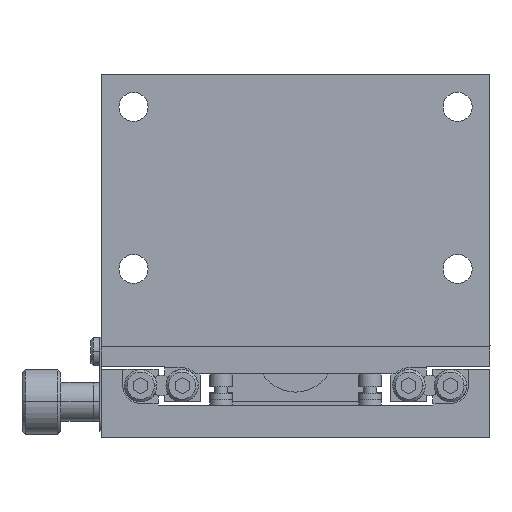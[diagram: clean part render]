
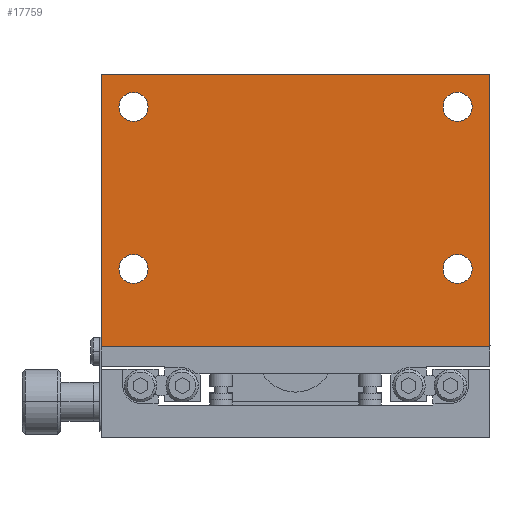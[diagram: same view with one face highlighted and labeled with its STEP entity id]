
A CAD part, front view. The second image highlights one B-rep face of the part: STEP entity #17759.
In plain terms, the highlighted planar face has unit normal (0, -1, 0).
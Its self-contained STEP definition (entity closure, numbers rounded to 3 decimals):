
#13453 = CARTESIAN_POINT ( 'NONE',  ( -25., 0., -6.75 ) ) ;
#13511 = CARTESIAN_POINT ( 'NONE',  ( -25., 0., -11.25 ) ) ;
#13512 = DIRECTION ( 'NONE',  ( 0., 0., -1. ) ) ;
#13513 = DIRECTION ( 'NONE',  ( 0., -1., 0. ) ) ;
#13514 = CARTESIAN_POINT ( 'NONE',  ( -25., 0., -9. ) ) ;
#13515 = AXIS2_PLACEMENT_3D ( 'NONE', #13514, #13513, #13512 ) ;
#13516 = CIRCLE ( 'NONE', #13515, 2.25 ) ;
#13517 = CARTESIAN_POINT ( 'NONE',  ( 25., 0., -6.75 ) ) ;
#13575 = CARTESIAN_POINT ( 'NONE',  ( 25., 0., -11.25 ) ) ;
#13576 = DIRECTION ( 'NONE',  ( 0., 0., -1. ) ) ;
#13577 = DIRECTION ( 'NONE',  ( 0., -1., 0. ) ) ;
#13578 = CARTESIAN_POINT ( 'NONE',  ( 25., 0., -9. ) ) ;
#13579 = AXIS2_PLACEMENT_3D ( 'NONE', #13578, #13577, #13576 ) ;
#13580 = CIRCLE ( 'NONE', #13579, 2.25 ) ;
#13598 = CARTESIAN_POINT ( 'NONE',  ( 25., 0., 13.75 ) ) ;
#13599 = DIRECTION ( 'NONE',  ( 0., 0., -1. ) ) ;
#13600 = DIRECTION ( 'NONE',  ( 0., -1., 0. ) ) ;
#13601 = CARTESIAN_POINT ( 'NONE',  ( 25., 0., 16. ) ) ;
#13602 = AXIS2_PLACEMENT_3D ( 'NONE', #13601, #13600, #13599 ) ;
#13603 = CIRCLE ( 'NONE', #13602, 2.25 ) ;
#13604 = CARTESIAN_POINT ( 'NONE',  ( 25., 0., 18.25 ) ) ;
#13615 = CARTESIAN_POINT ( 'NONE',  ( -25., 0., 16. ) ) ;
#13666 = CARTESIAN_POINT ( 'NONE',  ( -25., 0., 18.25 ) ) ;
#13673 = DIRECTION ( 'NONE',  ( 0., 0., -1. ) ) ;
#13674 = DIRECTION ( 'NONE',  ( 0., -1., 0. ) ) ;
#13675 = AXIS2_PLACEMENT_3D ( 'NONE', #13615, #13674, #13673 ) ;
#13676 = CIRCLE ( 'NONE', #13675, 2.25 ) ;
#13702 = CARTESIAN_POINT ( 'NONE',  ( -25., 0., 13.75 ) ) ;
#13774 = CARTESIAN_POINT ( 'NONE',  ( -30., 0., -21. ) ) ;
#13870 = CARTESIAN_POINT ( 'NONE',  ( 30., 0., 21. ) ) ;
#13894 = DIRECTION ( 'NONE',  ( 1., 0., 0. ) ) ;
#13895 = VECTOR ( 'NONE', #13894, 1000. ) ;
#13896 = CARTESIAN_POINT ( 'NONE',  ( -30., 0., 21. ) ) ;
#13897 = LINE ( 'NONE', #13896, #13895 ) ;
#13899 = DIRECTION ( 'NONE',  ( 0., 0., 1. ) ) ;
#13900 = VECTOR ( 'NONE', #13899, 1000. ) ;
#13901 = CARTESIAN_POINT ( 'NONE',  ( -30., 0., -21. ) ) ;
#13902 = LINE ( 'NONE', #13901, #13900 ) ;
#13916 = CARTESIAN_POINT ( 'NONE',  ( -30., 0., 21. ) ) ;
#13936 = DIRECTION ( 'NONE',  ( 0., 0., -1. ) ) ;
#13937 = DIRECTION ( 'NONE',  ( 0., -1., 0. ) ) ;
#13938 = CARTESIAN_POINT ( 'NONE',  ( 25., 0., -9. ) ) ;
#13939 = AXIS2_PLACEMENT_3D ( 'NONE', #13938, #13937, #13936 ) ;
#13940 = CIRCLE ( 'NONE', #13939, 2.25 ) ;
#13941 = DIRECTION ( 'NONE',  ( 0., 0., 1. ) ) ;
#13942 = DIRECTION ( 'NONE',  ( 0., 1., 0. ) ) ;
#13943 = CARTESIAN_POINT ( 'NONE',  ( -30., 0., 21. ) ) ;
#13944 = AXIS2_PLACEMENT_3D ( 'NONE', #13943, #13942, #13941 ) ;
#13945 = PLANE ( 'NONE',  #13944 ) ;
#13946 = FACE_OUTER_BOUND ( 'NONE', #17868, .T. ) ;
#13947 = FACE_BOUND ( 'NONE', #17814, .T. ) ;
#13948 = FACE_BOUND ( 'NONE', #17822, .T. ) ;
#13949 = FACE_BOUND ( 'NONE', #17775, .T. ) ;
#13950 = FACE_BOUND ( 'NONE', #17761, .T. ) ;
#13981 = DIRECTION ( 'NONE',  ( -1., 0., 0. ) ) ;
#13982 = VECTOR ( 'NONE', #13981, 1000. ) ;
#13983 = CARTESIAN_POINT ( 'NONE',  ( -30., 0., -21. ) ) ;
#13984 = LINE ( 'NONE', #13983, #13982 ) ;
#14008 = DIRECTION ( 'NONE',  ( 0., 0., -1. ) ) ;
#14009 = DIRECTION ( 'NONE',  ( 0., -1., 0. ) ) ;
#14010 = CARTESIAN_POINT ( 'NONE',  ( -25., 0., -9. ) ) ;
#14011 = AXIS2_PLACEMENT_3D ( 'NONE', #14010, #14009, #14008 ) ;
#14012 = CIRCLE ( 'NONE', #14011, 2.25 ) ;
#14019 = DIRECTION ( 'NONE',  ( 0., 0., -1. ) ) ;
#14020 = VECTOR ( 'NONE', #14019, 1000. ) ;
#14021 = CARTESIAN_POINT ( 'NONE',  ( 30., 0., -21. ) ) ;
#14022 = LINE ( 'NONE', #14021, #14020 ) ;
#14027 = CARTESIAN_POINT ( 'NONE',  ( 30., 0., -21. ) ) ;
#14057 = DIRECTION ( 'NONE',  ( 0., 0., -1. ) ) ;
#14058 = DIRECTION ( 'NONE',  ( 0., -1., 0. ) ) ;
#14059 = CARTESIAN_POINT ( 'NONE',  ( -25., 0., 16. ) ) ;
#14060 = AXIS2_PLACEMENT_3D ( 'NONE', #14059, #14058, #14057 ) ;
#14061 = CIRCLE ( 'NONE', #14060, 2.25 ) ;
#14117 = DIRECTION ( 'NONE',  ( 0., 0., -1. ) ) ;
#14118 = DIRECTION ( 'NONE',  ( 0., -1., 0. ) ) ;
#14119 = CARTESIAN_POINT ( 'NONE',  ( 25., 0., 16. ) ) ;
#14120 = AXIS2_PLACEMENT_3D ( 'NONE', #14119, #14118, #14117 ) ;
#14121 = CIRCLE ( 'NONE', #14120, 2.25 ) ;
#17511 = VERTEX_POINT ( 'NONE', #13453 ) ;
#17513 = EDGE_CURVE ( 'NONE', #17511, #17514, #13516, .T. ) ;
#17514 = VERTEX_POINT ( 'NONE', #13511 ) ;
#17560 = VERTEX_POINT ( 'NONE', #13517 ) ;
#17562 = EDGE_CURVE ( 'NONE', #17560, #17563, #13580, .T. ) ;
#17563 = VERTEX_POINT ( 'NONE', #13575 ) ;
#17580 = VERTEX_POINT ( 'NONE', #13604 ) ;
#17582 = EDGE_CURVE ( 'NONE', #17580, #17583, #13603, .T. ) ;
#17583 = VERTEX_POINT ( 'NONE', #13598 ) ;
#17601 = EDGE_CURVE ( 'NONE', #17607, #17623, #13676, .T. ) ;
#17607 = VERTEX_POINT ( 'NONE', #13666 ) ;
#17623 = VERTEX_POINT ( 'NONE', #13702 ) ;
#17687 = VERTEX_POINT ( 'NONE', #13774 ) ;
#17719 = EDGE_CURVE ( 'NONE', #17742, #17733, #13897, .T. ) ;
#17733 = VERTEX_POINT ( 'NONE', #13870 ) ;
#17742 = VERTEX_POINT ( 'NONE', #13916 ) ;
#17752 = EDGE_CURVE ( 'NONE', #17687, #17742, #13902, .T. ) ;
#17759 = ADVANCED_FACE ( 'NONE', ( #13950, #13949, #13948, #13947, #13946 ), #13945, .F. ) ;
#17761 = EDGE_LOOP ( 'NONE', ( #17769, #17774 ) ) ;
#17762 = EDGE_CURVE ( 'NONE', #17563, #17560, #13940, .T. ) ;
#17769 = ORIENTED_EDGE ( 'NONE', *, *, #17762, .F. ) ;
#17770 = ORIENTED_EDGE ( 'NONE', *, *, #17866, .F. ) ;
#17774 = ORIENTED_EDGE ( 'NONE', *, *, #17562, .F. ) ;
#17775 = EDGE_LOOP ( 'NONE', ( #17770, #17856 ) ) ;
#17776 = EDGE_CURVE ( 'NONE', #17792, #17687, #13984, .T. ) ;
#17792 = VERTEX_POINT ( 'NONE', #14027 ) ;
#17796 = EDGE_CURVE ( 'NONE', #17733, #17792, #14022, .T. ) ;
#17803 = ORIENTED_EDGE ( 'NONE', *, *, #17804, .F. ) ;
#17804 = EDGE_CURVE ( 'NONE', #17514, #17511, #14012, .T. ) ;
#17805 = ORIENTED_EDGE ( 'NONE', *, *, #17513, .F. ) ;
#17814 = EDGE_LOOP ( 'NONE', ( #17815, #17867 ) ) ;
#17815 = ORIENTED_EDGE ( 'NONE', *, *, #17816, .F. ) ;
#17816 = EDGE_CURVE ( 'NONE', #17623, #17607, #14061, .T. ) ;
#17822 = EDGE_LOOP ( 'NONE', ( #17803, #17805 ) ) ;
#17856 = ORIENTED_EDGE ( 'NONE', *, *, #17582, .F. ) ;
#17857 = ORIENTED_EDGE ( 'NONE', *, *, #17752, .F. ) ;
#17858 = ORIENTED_EDGE ( 'NONE', *, *, #17776, .F. ) ;
#17859 = ORIENTED_EDGE ( 'NONE', *, *, #17796, .F. ) ;
#17860 = ORIENTED_EDGE ( 'NONE', *, *, #17719, .F. ) ;
#17866 = EDGE_CURVE ( 'NONE', #17583, #17580, #14121, .T. ) ;
#17867 = ORIENTED_EDGE ( 'NONE', *, *, #17601, .F. ) ;
#17868 = EDGE_LOOP ( 'NONE', ( #17857, #17858, #17859, #17860 ) ) ;
